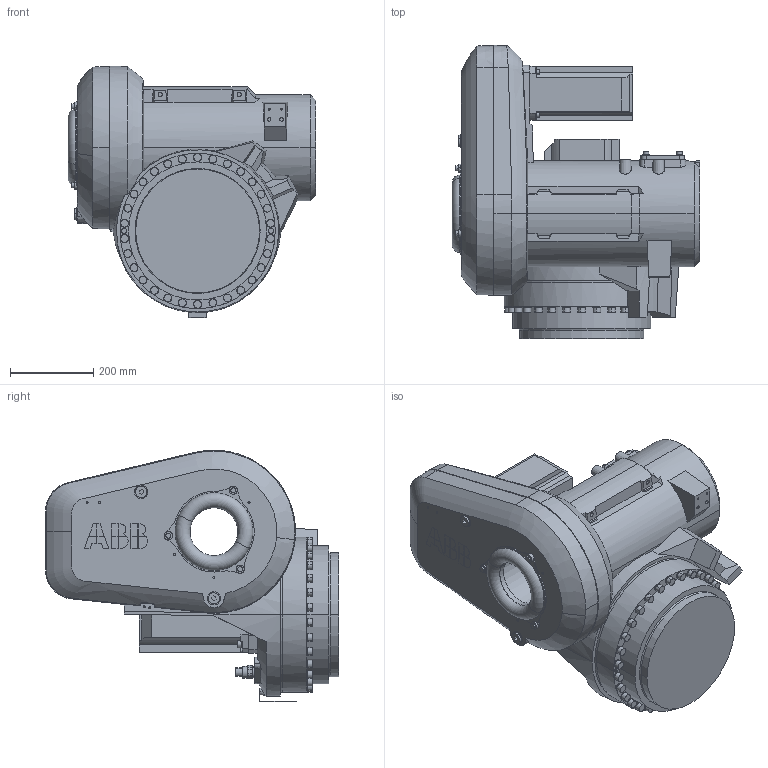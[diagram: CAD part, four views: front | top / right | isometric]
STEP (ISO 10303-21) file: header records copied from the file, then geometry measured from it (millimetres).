
FILE_DESCRIPTION (( 'STEP AP203' ), '1' );
FILE_NAME ('IRB6700-MH6_220-300_IRC5_rev01_LINK03_CAD.STEP', '2014-08-27T11:27:12', ( 'ABB' ), ( 'ABB' ), 'SwSTEP 2.0', 'SolidWorks 2012', '' );
FILE_SCHEMA (( 'CONFIG_CONTROL_DESIGN' ));
Length unit declared in the file: millimetre
Products named in the file (1): IRB6700-MH6_220-300_IRC5_rev01_LINK03_CAD
Bounding box: 595 x 704.4 x 605.15 mm (x, y, z)
Volume: 69964600.1 mm3; surface area: 2059650.2 mm2
Topology: 1 solids, 1 shells, 962 faces, 2368 edges, 1563 vertices
Faces by surface type: plane 530, cylinder 316, cone 90, bspline 21, torus 5
Entity records: 33444 total; most frequent: CARTESIAN_POINT 10405, DIRECTION 4792, ORIENTED_EDGE 4736, EDGE_CURVE 2368, AXIS2_PLACEMENT_3D 1733, VERTEX_POINT 1563, VECTOR 1326, LINE 1326
